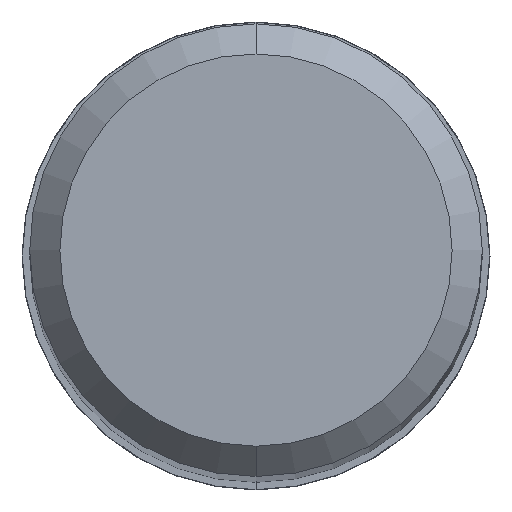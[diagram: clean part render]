
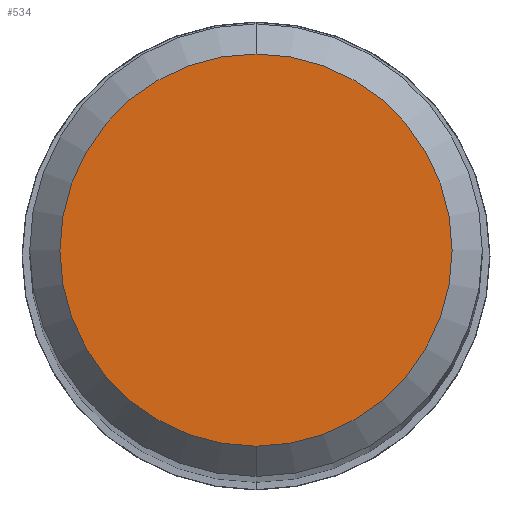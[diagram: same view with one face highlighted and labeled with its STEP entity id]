
A CAD part, top view. The second image highlights one B-rep face of the part: STEP entity #534.
In plain terms, the highlighted planar face has unit normal (0, 0, 1).
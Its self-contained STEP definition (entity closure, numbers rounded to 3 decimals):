
#284=EDGE_CURVE('',#426,#528,#660,.T.);
#354=EDGE_CURVE('',#528,#426,#737,.T.);
#426=VERTEX_POINT('',#819);
#528=VERTEX_POINT('',#929);
#534=ADVANCED_FACE('',(#935),#936,.T.);
#660=CIRCLE('',#1137,2.6);
#737=CIRCLE('',#1279,2.6);
#819=CARTESIAN_POINT('',(0.0,2.6,0.0));
#929=CARTESIAN_POINT('',(0.,-2.6,0.0));
#935=FACE_OUTER_BOUND('',#1649,.T.);
#936=PLANE('',#1650);
#1137=AXIS2_PLACEMENT_3D('',#1797,#1798,#1799);
#1279=AXIS2_PLACEMENT_3D('',#1874,#1875,#1876);
#1649=EDGE_LOOP('',(#2102,#2103));
#1650=AXIS2_PLACEMENT_3D('',#2104,#2105,#2106);
#1797=CARTESIAN_POINT('',(0.0,0.0,0.0));
#1798=DIRECTION('',(0.0,0.0,-1.0));
#1799=DIRECTION('',(0.0,1.0,0.0));
#1874=CARTESIAN_POINT('',(0.0,0.0,0.0));
#1875=DIRECTION('',(0.0,0.0,-1.0));
#1876=DIRECTION('',(0.0,1.0,0.0));
#2102=ORIENTED_EDGE('',*,*,#284,.F.);
#2103=ORIENTED_EDGE('',*,*,#354,.F.);
#2104=CARTESIAN_POINT('',(0.0,1.3,0.0));
#2105=DIRECTION('',(-0.0,0.0,1.0));
#2106=DIRECTION('',(0.0,-1.0,0.0));
